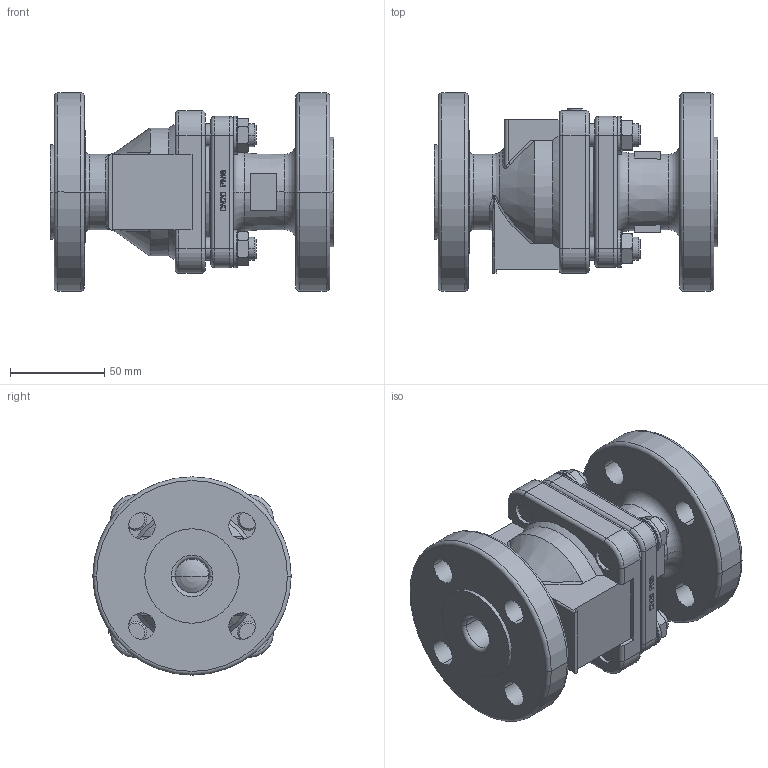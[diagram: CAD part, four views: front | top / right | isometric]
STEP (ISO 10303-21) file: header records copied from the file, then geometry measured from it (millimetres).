
FILE_DESCRIPTION((''),'2;1');
FILE_NAME('9595-20-0301_E_CV20_PROE','2015-03-18T',('SParmar1'),(''),'PRO/ENGINEER BY PARAMETRIC TECHNOLOGY CORPORATION, 2011040','PRO/ENGINEER BY PARAMETRIC TECHNOLOGY CORPORATION, 2011040','');
FILE_SCHEMA(('CONFIG_CONTROL_DESIGN'));
Length unit declared in the file: millimetre
Products named in the file (1): 9595-20-0301_E_CV20_PROE
Bounding box: 150 x 105 x 105 mm (x, y, z)
Volume: 638766 mm3; surface area: 98653.4 mm2
Topology: 1 solids, 5 shells, 1280 faces, 3537 edges, 2318 vertices
Faces by surface type: plane 1010, cylinder 120, torus 105, cone 25, bspline 12, sphere 8
Entity records: 42479 total; most frequent: CARTESIAN_POINT 9727, ORIENTED_EDGE 7050, DIRECTION 6344, EDGE_CURVE 3533, VECTOR 2930, LINE 2930, VERTEX_POINT 2318, AXIS2_PLACEMENT_3D 1707
